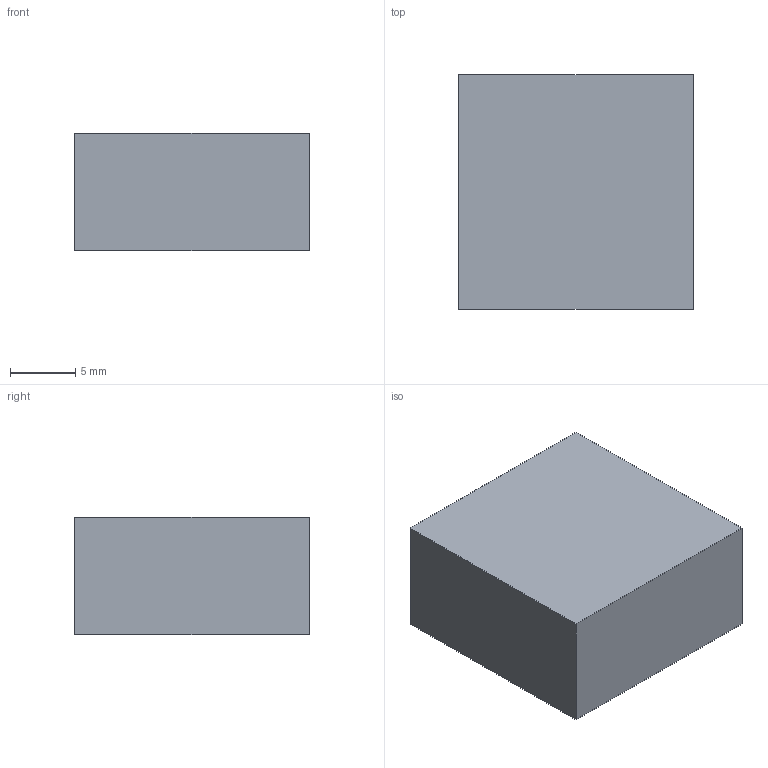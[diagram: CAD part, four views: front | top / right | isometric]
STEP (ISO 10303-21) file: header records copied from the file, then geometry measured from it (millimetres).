
FILE_DESCRIPTION(('Open CASCADE Model'),'2;1');
FILE_NAME('Open CASCADE Shape Model','2026-10-16T20:10:47',('Author'),( 'Open CASCADE'),'Open CASCADE STEP processor 7.9','Open CASCADE 7.9' ,'Unknown');
FILE_SCHEMA(('AUTOMOTIVE_DESIGN { 1 0 10303 214 1 1 1 1 }'));
Length unit declared in the file: millimetre
Products named in the file (1): Open CASCADE STEP translator 7.9 75
Bounding box: 18 x 18 x 9 mm (x, y, z)
Volume: 2916 mm3; surface area: 1296 mm2
Topology: 1 solids, 1 shells, 6 faces, 12 edges, 8 vertices
Faces by surface type: plane 6
Entity records: 322 total; most frequent: CARTESIAN_POINT 51, DIRECTION 50, LINE 36, VECTOR 36, ORIENTED_EDGE 24, PCURVE 24, DEFINITIONAL_REPRESENTATION 24, EDGE_CURVE 12
